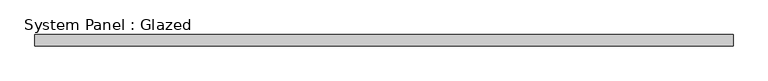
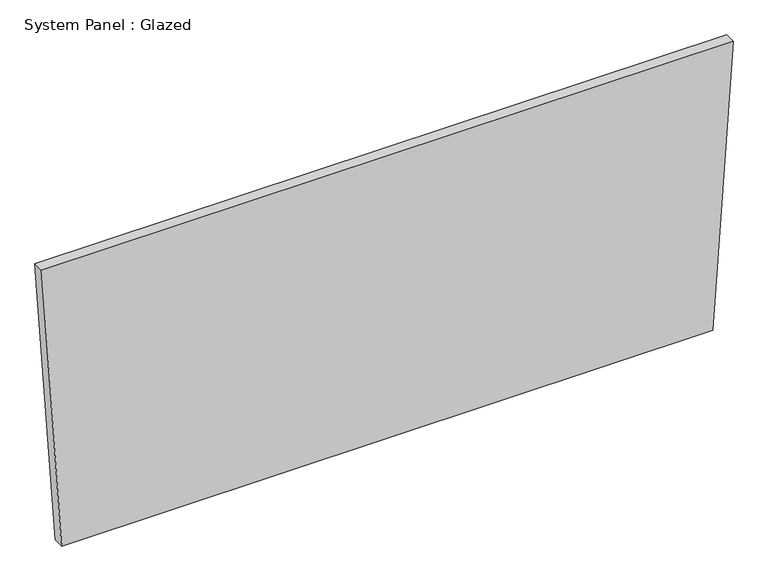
"""IFC4 building model written with IfcOpenShell, lengths in millimetres: plate geometry, System Panel : Glazed."""

from ifc_helpers import new_model, si_unit, frame, origin, place, context, project, spatial, polyline, outline, extrude, source, transform, mapped, element, save


def system_panel_glazed_6abd9531(model_context):
    return source(origin(), model_context, "Body", "SweptSolid", [
        extrude(outline(polyline([(0.0, -724.8650206), (0.000256, 724.8650378), (664.3025527, 769.5839603), (664.3025527, -769.5839603), (0.0, -724.8650206)])), frame((0.0, 19.05, 0.0), z_axis=(0.0, 1.0, 0.0), x_axis=(0.0, 0.0, 1.0)), (0.0, 0.0, 1.0), 25.4),
    ])


if __name__ == "__main__":
    model = new_model("IFC4")
    model_context = context("Model", 3, world=origin())
    ifc_project = project(units=[si_unit("LENGTHUNIT", "METRE", prefix="MILLI")], contexts=[model_context])
    site = spatial("IfcSite", under=ifc_project)
    building = spatial("IfcBuilding", under=site)
    placement = place(None, origin())
    system_panel_glazed_shape = system_panel_glazed_6abd9531(model_context)
    element("IfcPlate", 1, ObjectType="System Panel : Glazed", at=placement, inside=building, context=model_context, shape_type="MappedRepresentation", body=[
        mapped(system_panel_glazed_shape, transform((0.0, 0.0, 0.0), x_axis=(1.0, 0.0, 0.0), y_axis=(0.0, 1.0, 0.0), z_axis=(0.0, 0.0, 1.0))),
    ])
    save(model, "model.ifc")
